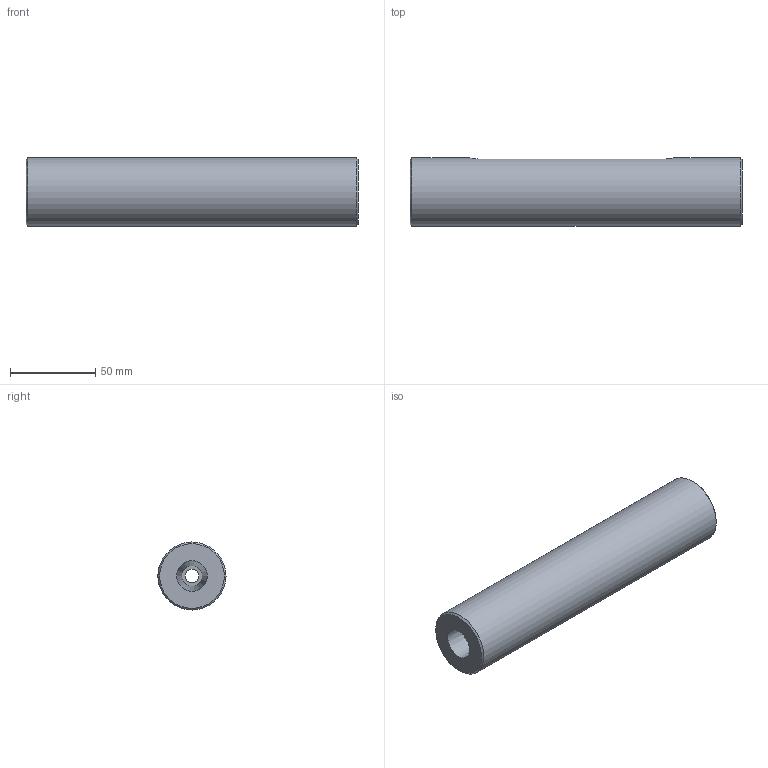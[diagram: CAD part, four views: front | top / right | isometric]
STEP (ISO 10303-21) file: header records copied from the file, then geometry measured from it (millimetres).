
FILE_DESCRIPTION(/* description */ (''),/* implementation_level */ '2;1');
FILE_NAME(/* name */ '',/* time_stamp */ '2024-07-11T13:44:19+09:00',/* author */ ('jhkim'),/* organization */ (''),/* preprocessor_version */ 'ST-DEVELOPER v20',/* originating_system */ 'Autodesk Inventor 2025',/* authorisation */ '');
FILE_SCHEMA (('AUTOMOTIVE_DESIGN { 1 0 10303 214 3 1 1 }'));
Length unit declared in the file: millimetre
Products named in the file (1): 슬리브
Bounding box: 195 x 40 x 40 mm (x, y, z)
Volume: 214369.2 mm3; surface area: 35406.8 mm2
Topology: 1 solids, 1 shells, 14 faces, 29 edges, 19 vertices
Faces by surface type: plane 6, cylinder 5, cone 3
Full cylindrical faces by diameter (mm): 8 x1, 12 x1, 40 x1
Entity records: 451 total; most frequent: CARTESIAN_POINT 99, DIRECTION 66, ORIENTED_EDGE 58, EDGE_CURVE 29, AXIS2_PLACEMENT_3D 26, VERTEX_POINT 19, EDGE_LOOP 18, FACE_OUTER_BOUND 14
